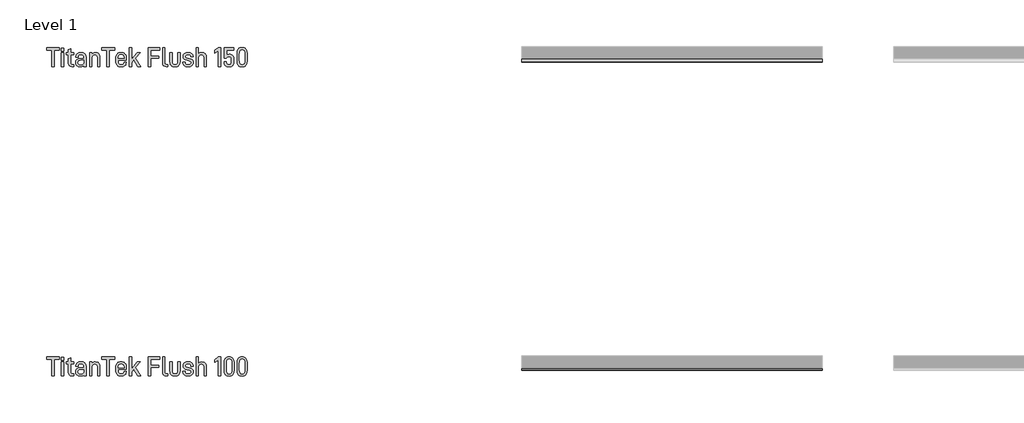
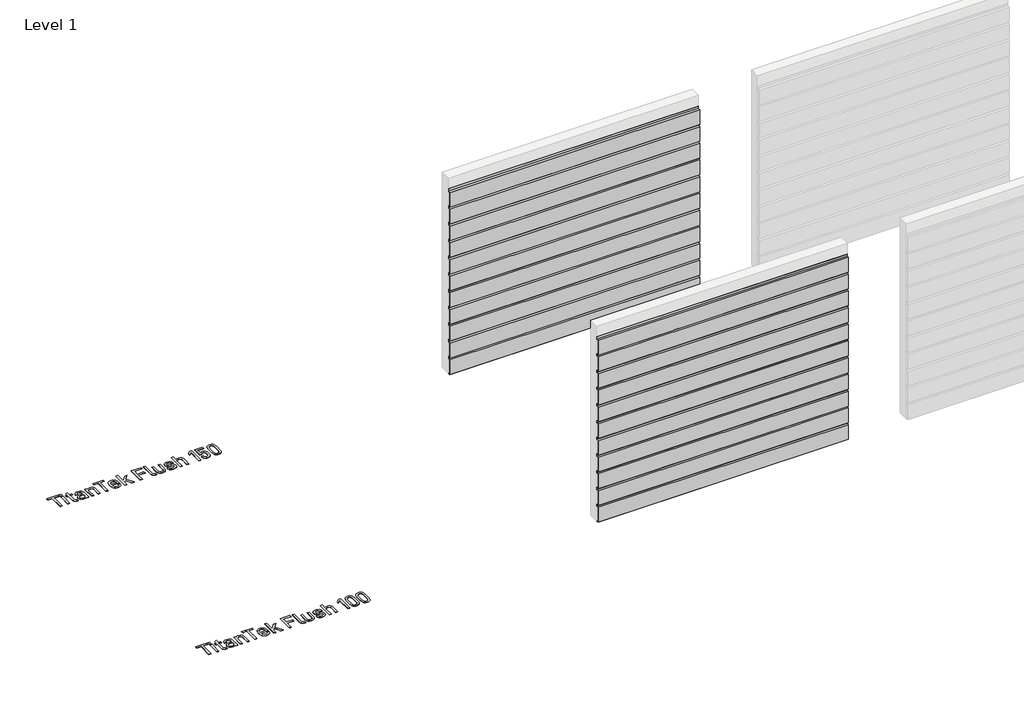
# One storey, part 27 of 33: 4 proxies.
"""IFC4 building model written with IfcOpenShell, lengths in millimetres."""

from ifc_helpers import new_model, si_unit, origin, origin_with_axes, place, context, project, spatial, polyline, outline, extrude, transform, mapped, element, save
from components import titantek_flush_100_aluminum_slate_gray_4e4c1b2d, titantek_flush_150_aluminum_slate_gray_06856ec8

model = new_model("IFC4")

# Units and contexts
model_context = context("Model", 3, world=origin())
ifc_project = project(units=[si_unit("LENGTHUNIT", "METRE", prefix="MILLI")], contexts=[model_context])

# Site, building, storey
site = spatial("IfcSite", under=ifc_project)
building = spatial("IfcBuilding", under=site)
storey = spatial("IfcBuildingStorey", under=building, Name="Level 1", Elevation=0.0)

# Proxies
placement = place(None, origin())
element("IfcBuildingElementProxy", 1, Name="600mm Arial 2", ObjectType="600mm Arial 2", at=placement, inside=storey, context=model_context, shape_type="SweptSolid", body=[
    extrude(outline(polyline([(-9914.9924556, 97220.4128343), (-9914.9924556, 96952.9873502), (-9954.4439015, 96952.9873502), (-9954.4439015, 97220.4128343), (-10038.8787304, 97220.4128343), (-10038.8787304, 97257.3166776), (-9830.5576267, 97257.3166776), (-9830.5576267, 97220.4128343), (-9914.9924556, 97220.4128343)])), origin_with_axes(), (0.0, 0.0, 1.0), 5.0),
    extrude(outline(polyline([(-9763.1553408, 97253.0221475), (-9763.1553408, 97205.8551051), (-9802.6067867, 97205.8551051), (-9802.6067867, 97253.0221475), (-9763.1553408, 97253.0221475)])), origin_with_axes(), (0.0, 0.0, 1.0), 5.0),
    extrude(outline(polyline([(-9764.0288046, 97178.8505176), (-9764.0288046, 96952.9873502), (-9801.733323, 96952.9873502), (-9801.733323, 97178.8505176), (-9764.0288046, 97178.8505176)])), origin_with_axes(), (0.0, 0.0, 1.0), 5.0),
    extrude(outline(polyline([(-9648.294858, 97012.601251), (-9646.8208879, 97001.5191797), (-9642.3989777, 96993.6034145), (-9635.0291273, 96988.8539554), (-9624.7113368, 96987.2708023), (-9603.2386864, 96987.2708023), (-9603.2386864, 96952.9873502), (-9629.3698101, 96952.9873502), (-9653.1535001, 96956.9543314), (-9671.3688587, 96968.855275), (-9682.6692959, 96987.3981825), (-9686.4361083, 97011.2910554), (-9686.4361083, 97147.1146681), (-9720.2828285, 97147.1146681), (-9720.2828285, 97178.8505176), (-9686.4361083, 97178.8505176), (-9686.4361083, 97226.8910237), (-9648.294858, 97244.8698192), (-9648.294858, 97178.8505176), (-9599.3808881, 97178.8505176), (-9599.3808881, 97147.1146681), (-9648.294858, 97147.1146681), (-9648.294858, 97012.601251)])), origin_with_axes(), (0.0, 0.0, 1.0), 5.0),
    extrude(outline(polyline([(-9422.8684225, 97162.1091291), (-9413.2830677, 97151.3409589), (-9406.4363858, 97138.2526505), (-9400.9590402, 97105.1156196), (-9400.9590402, 96952.9873502), (-9438.2996154, 96952.9873502), (-9438.2996154, 96969.2920069), (-9456.7151427, 96956.8451485), (-9473.7476858, 96952.0410978), (-9493.9829293, 96950.4397476), (-9526.0281305, 96954.7160806), (-9550.1029751, 96967.5450794), (-9565.2248162, 96989.3270816), (-9570.2654299, 97018.5699199), (-9565.1338304, 97046.2114081), (-9549.7390318, 97067.4111012), (-9525.063681, 97080.6222403), (-9493.1094655, 97085.0259534), (-9438.7363472, 97085.0259534), (-9438.7363472, 97105.5523515), (-9441.6296959, 97124.441005), (-9450.3097419, 97138.1616647), (-9464.2305704, 97146.1866129), (-9483.7197302, 97148.8615956), (-9502.2262434, 97146.6051476), (-9515.819523, 97139.8358036), (-9524.1720201, 97129.4816187), (-9526.9561857, 97115.4516073), (-9526.9561857, 97109.8468816), (-9563.8600291, 97109.8468816), (-9563.8600291, 97116.2522824), (-9558.4008807, 97143.2932642), (-9542.0234354, 97164.2927885), (-9516.8203668, 97177.4493362), (-9484.1564621, 97181.8348521), (-9448.6719974, 97176.9034213), (-9434.5600987, 97170.7391329), (-9422.8684225, 97162.1091291)]), holes=[polyline([(-9450.6736851, 96994.5496669), (-9441.7206817, 97009.4531421), (-9438.7363472, 97031.0167784), (-9438.7363472, 97054.9642428), (-9488.8149354, 97054.9642428), (-9507.9538, 97052.7168933), (-9521.6244175, 97045.974845), (-9529.826788, 97034.7380979), (-9532.5609115, 97019.0066518), (-9529.8540837, 97003.0522906), (-9521.7336004, 96991.6563182), (-9508.1994616, 96984.8187348), (-9489.2516673, 96982.5395404), (-9466.104878, 96985.542072), (-9450.6736851, 96994.5496669)])]), origin_with_axes(), (0.0, 0.0, 1.0), 5.0),
    extrude(outline(polyline([(-9306.6977441, 97178.8505176), (-9306.6977441, 97160.4349903), (-9288.2822167, 97173.6825238), (-9271.1222935, 97179.4692211), (-9252.2518372, 97181.3981202), (-9219.9154813, 97175.9389718), (-9206.7907787, 97169.1150363), (-9195.6950595, 97159.5615265), (-9187.0650557, 97147.9790333), (-9180.9007673, 97134.1946835), (-9175.9693365, 97100.0204144), (-9175.9693365, 96952.9873502), (-9213.673855, 96952.9873502), (-9213.673855, 97095.7258843), (-9216.6763866, 97118.1083928), (-9225.6839815, 97133.8671346), (-9240.3781893, 97143.4752358), (-9259.567096, 97146.6779363), (-9278.7378056, 97143.4752358), (-9293.3774219, 97133.8671346), (-9303.0401146, 97117.453295), (-9306.2610122, 97095.7258843), (-9306.2610122, 96952.9873502), (-9343.9655306, 96952.9873502), (-9343.9655306, 97178.8505176), (-9306.6977441, 97178.8505176)])), origin_with_axes(), (0.0, 0.0, 1.0), 5.0),
    extrude(outline(polyline([(-9025.2240514, 97220.4128343), (-9025.2240514, 96952.9873502), (-9064.6754974, 96952.9873502), (-9064.6754974, 97220.4128343), (-9149.1103263, 97220.4128343), (-9149.1103263, 97257.3166776), (-8940.7892225, 97257.3166776), (-8940.7892225, 97220.4128343), (-9025.2240514, 97220.4128343)])), origin_with_axes(), (0.0, 0.0, 1.0), 5.0),
    extrude(outline(polyline([(-8884.5235994, 97047.2486463), (-8881.1025331, 97017.8329349), (-8870.8393341, 96998.8805913), (-8854.3527058, 96988.5900965), (-8832.2613519, 96985.1599316), (-8812.990558, 96987.7257314), (-8798.8513635, 96995.4231306), (-8790.1713175, 97007.1966941), (-8787.2779689, 97022.86445), (-8787.2779689, 97028.3963871), (-8750.3741256, 97028.3963871), (-8750.3741256, 97021.9909863), (-8756.0516399, 96992.8391337), (-8763.1485329, 96980.528754), (-8773.084183, 96969.7287387), (-8799.7976159, 96955.2619954), (-8834.3722226, 96950.4397476), (-8853.3222916, 96951.9387388), (-8870.2843206, 96956.4357123), (-8885.2583098, 96963.9306682), (-8898.2442591, 96974.4236064), (-8908.7371973, 96988.0237099), (-8916.2321532, 97004.8401617), (-8920.7291267, 97024.8729617), (-8922.2281179, 97048.1221101), (-8922.2281179, 97085.8266285), (-8920.7314014, 97108.5321367), (-8916.2412518, 97128.1714231), (-8908.7576691, 97144.7444879), (-8898.2806535, 97158.2513309), (-8885.4971476, 97168.5691214), (-8870.7301511, 97175.9389718), (-8853.979664, 97180.360882), (-8835.2456864, 97181.8348521), (-8816.8438069, 97180.360882), (-8800.2161506, 97175.9389718), (-8785.3627176, 97168.5691214), (-8772.2835079, 97158.2513309), (-8761.9657174, 97144.9082623), (-8754.595867, 97128.389789), (-8750.1739568, 97108.6959111), (-8748.6999867, 97085.8266285), (-8748.6999867, 97055.8377065), (-8884.5235994, 97055.8377065), (-8884.5235994, 97047.2486463)]), holes=[polyline([(-8871.2760659, 97133.4304027), (-8881.2117161, 97115.30603), (-8884.5235994, 97086.7000923), (-8786.4045051, 97086.2633604), (-8786.4045051, 97089.6844267), (-8789.6254027, 97116.9255774), (-8799.2880954, 97134.3038665), (-8814.9012599, 97143.5844188), (-8835.2456864, 97146.6779363), (-8855.60831, 97143.3660529), (-8871.2760659, 97133.4304027)])]), origin_with_axes(), (0.0, 0.0, 1.0), 5.0),
    extrude(outline(polyline([(-8663.391694, 97020.3168474), (-8663.391694, 96952.9873502), (-8701.0962125, 96952.9873502), (-8701.0962125, 97257.3166776), (-8663.391694, 97257.3166776), (-8663.391694, 97070.8321675), (-8575.0990669, 97178.8505176), (-8528.3687564, 97178.8505176), (-8602.5403863, 97091.8680861), (-8517.6688255, 96952.9873502), (-8563.5256722, 96952.9873502), (-8627.7980463, 97062.6798392), (-8663.391694, 97020.3168474)])), origin_with_axes(), (0.0, 0.0, 1.0), 5.0),
    extrude(outline(polyline([(-8356.2963981, 97125.2780744), (-8229.4257888, 97125.2780744), (-8229.4257888, 97088.4470198), (-8356.2963981, 97088.4470198), (-8356.2963981, 96952.9873502), (-8396.1845759, 96952.9873502), (-8396.1845759, 97257.3166776), (-8208.025927, 97257.3166776), (-8208.025927, 97220.4128343), (-8356.2963981, 97220.4128343), (-8356.2963981, 97125.2780744)])), origin_with_axes(), (0.0, 0.0, 1.0), 5.0),
    extrude(outline(polyline([(-8150.3773196, 96968.855275), (-8161.6231654, 96988.362632), (-8165.3717806, 97014.2753899), (-8165.3717806, 97257.3166776), (-8127.6672622, 97257.3166776), (-8127.6672622, 97016.0223174), (-8126.2842779, 97002.6110094), (-8122.1353251, 96994.112935), (-8115.1476152, 96989.6364333), (-8104.5204729, 96988.1442661), (-8082.6838792, 96988.1442661), (-8082.6838792, 96952.9873502), (-8107.5048074, 96952.9873502), (-8132.380327, 96956.9543314), (-8150.3773196, 96968.855275)])), origin_with_axes(), (0.0, 0.0, 1.0), 5.0),
    extrude(outline(polyline([(-8027.9468177, 96973.1498051), (-8037.118187, 96985.4920298), (-8043.6691652, 97000.2453784), (-8048.9099476, 97036.9854473), (-8048.9099476, 97178.8505176), (-8011.2054292, 97178.8505176), (-8011.2054292, 97040.8432455), (-8008.5304465, 97015.6765713), (-8000.5054983, 96998.4074651), (-7986.4845854, 96988.471815), (-7964.9482449, 96985.1599316), (-7943.4119044, 96988.362632), (-7929.3909915, 96997.9707332), (-7921.3114519, 97015.3490224), (-7918.618272, 97040.8432455), (-7918.618272, 97178.8505176), (-7880.9137535, 97178.8505176), (-7880.9137535, 97036.9854473), (-7886.1727332, 97000.2453784), (-7892.7464577, 96985.4920298), (-7901.9496721, 96973.1498051), (-7913.9370522, 96963.2141549), (-7928.4993306, 96956.117262), (-7945.6365074, 96951.8591262), (-7965.3485825, 96950.4397476), (-7984.6830665, 96951.8591262), (-8001.5609337, 96956.117262), (-8015.9821841, 96963.2141549), (-8027.9468177, 96973.1498051)])), origin_with_axes(), (0.0, 0.0, 1.0), 5.0),
    extrude(outline(polyline([(-7814.1665655, 96968.4185431), (-7824.2932858, 96978.5953056), (-7831.5266575, 96990.273334), (-7837.3133548, 97018.1331881), (-7837.3133548, 97024.1746457), (-7800.4823001, 97024.1746457), (-7800.4823001, 97018.5699199), (-7797.3705855, 97004.3215426), (-7788.0354417, 96993.3122599), (-7772.9136006, 96986.215367), (-7753.3152577, 96983.849736), (-7732.7524654, 96986.106184), (-7717.3576668, 96992.875528), (-7708.3500719, 97003.5572618), (-7705.3475403, 97017.6964562), (-7707.3856224, 97029.9431458), (-7713.4998686, 97038.2956429), (-7724.818503, 97044.391692), (-7742.6153268, 97048.9955738), (-7769.6199144, 97053.7268358), (-7798.2076549, 97061.751784), (-7818.0243637, 97073.8892906), (-7829.9253073, 97091.3403684), (-7833.8922885, 97115.4516073), (-7828.2147741, 97142.7655466), (-7821.1178811, 97154.0887302), (-7811.182231, 97163.8560566), (-7786.0155568, 97177.3401532), (-7754.1887215, 97181.8348521), (-7720.1236353, 97177.4493362), (-7694.2108775, 97164.2927885), (-7676.8507855, 97143.9119677), (-7671.0640882, 97117.9992099), (-7671.0640882, 97111.1570772), (-7707.8951429, 97111.1570772), (-7707.8951429, 97116.6890143), (-7710.7884915, 97129.9001534), (-7719.4685375, 97140.2725354), (-7734.1536468, 97147.0418795), (-7753.3152577, 97149.2983275), (-7772.3858829, 97147.0418795), (-7785.924571, 97140.2725354), (-7794.2770681, 97130.300491), (-7797.0612338, 97116.6890143), (-7795.1323347, 97105.7889146), (-7789.3456373, 97097.836755), (-7778.8458752, 97091.631523), (-7762.7777817, 97087.573556), (-7734.4629985, 97082.4055622), (-7705.4385261, 97074.0712622), (-7685.1850854, 97061.8791641), (-7672.6290441, 97043.9549601), (-7668.4436969, 97019.4433837), (-7669.9449628, 97003.8620642), (-7674.4487602, 96990.164151), (-7681.9550893, 96978.3496439), (-7692.46395, 96968.4185431), (-7719.7960864, 96954.9344465), (-7754.6254534, 96950.4397476), (-7787.9262587, 96954.9344465), (-7814.1665655, 96968.4185431)])), origin_with_axes(), (0.0, 0.0, 1.0), 5.0),
    extrude(outline(polyline([(-7587.2843571, 97257.3166776), (-7587.2843571, 97159.9982584), (-7563.7008359, 97176.0481548), (-7533.275182, 97181.3981202), (-7501.484741, 97176.0481548), (-7488.3873341, 97169.3606979), (-7477.1551362, 97159.9982584), (-7468.3340622, 97148.224695), (-7462.0332951, 97134.3038665), (-7456.9926814, 97100.0204144), (-7456.9926814, 96952.9873502), (-7494.6971998, 96952.9873502), (-7494.6971998, 97095.7258843), (-7497.6997315, 97118.1083928), (-7506.7073264, 97133.8671346), (-7521.4015342, 97143.4752358), (-7540.5904409, 97146.6779363), (-7559.7611504, 97143.4752358), (-7574.4007668, 97133.8671346), (-7584.0634595, 97117.453295), (-7587.2843571, 97095.7258843), (-7587.2843571, 96952.9873502), (-7624.9888755, 96952.9873502), (-7624.9888755, 97257.3166776), (-7587.2843571, 97257.3166776)])), origin_with_axes(), (0.0, 0.0, 1.0), 5.0),
    extrude(outline(polyline([(-7318.9126206, 97170.2614574), (-7318.9126206, 97216.1183042), (-7265.3401775, 97257.3166776), (-7228.5091228, 97257.3166776), (-7228.5091228, 96952.9873502), (-7267.9605687, 96952.9873502), (-7267.9605687, 97208.4027077), (-7318.9126206, 97170.2614574)])), origin_with_axes(), (0.0, 0.0, 1.0), 5.0),
    extrude(outline(polyline([(-7172.3162883, 97164.2927885), (-7167.2301817, 97206.8377519), (-7160.8725485, 97223.5518446), (-7151.9718619, 97237.2270114), (-7140.528122, 97247.8632523), (-7126.5413288, 97255.4605671), (-7110.0114823, 97260.0189561), (-7090.9385825, 97261.5384191), (-7071.7462639, 97260.0189561), (-7055.112921, 97255.4605671), (-7041.038554, 97247.8632523), (-7029.5231628, 97237.2270114), (-7020.5667474, 97223.5518446), (-7014.1693079, 97206.8377519), (-7009.0513562, 97164.2927885), (-7009.0513562, 97047.6853782), (-7014.1693079, 97004.3761341), (-7020.5667474, 96987.3617881), (-7029.5231628, 96973.4409597), (-7041.038554, 96962.6136486), (-7055.112921, 96954.879855), (-7071.7462639, 96950.2395789), (-7090.9385825, 96948.6928201), (-7110.0114823, 96950.2395789), (-7126.5413288, 96954.879855), (-7140.528122, 96962.6136486), (-7151.9718619, 96973.4409597), (-7160.8725485, 96987.3617881), (-7167.2301817, 97004.3761341), (-7172.3162883, 97047.6853782), (-7172.3162883, 97164.2927885)]), holes=[polyline([(-7058.7660012, 97000.1543926), (-7051.3961508, 97021.4814658), (-7048.939534, 97053.7268358), (-7048.939534, 97156.5771921), (-7051.3961508, 97188.8225621), (-7058.7660012, 97210.1496352), (-7071.4949156, 97221.0679321), (-7090.9021882, 97224.7073644), (-7110.2002779, 97221.0679321), (-7122.6016434, 97210.1496352), (-7130.0260852, 97188.8225621), (-7132.5008992, 97156.5771921), (-7132.5008992, 97053.7268358), (-7130.0260852, 97021.4814658), (-7122.6016434, 97000.1543926), (-7110.2002779, 96989.2360958), (-7090.9021882, 96985.5966635), (-7071.4949156, 96989.2360958), (-7058.7660012, 97000.1543926)])]), origin_with_axes(), (0.0, 0.0, 1.0), 5.0),
    extrude(outline(polyline([(-6962.6849889, 97164.2927885), (-6957.5988823, 97206.8377519), (-6951.2412491, 97223.5518446), (-6942.3405625, 97237.2270114), (-6930.8968226, 97247.8632523), (-6916.9100294, 97255.4605671), (-6900.3801829, 97260.0189561), (-6881.3072831, 97261.5384191), (-6862.1149645, 97260.0189561), (-6845.4816216, 97255.4605671), (-6831.4072546, 97247.8632523), (-6819.8918634, 97237.2270114), (-6810.935448, 97223.5518446), (-6804.5380084, 97206.8377519), (-6799.4200568, 97164.2927885), (-6799.4200568, 97047.6853782), (-6804.5380084, 97004.3761341), (-6810.935448, 96987.3617881), (-6819.8918634, 96973.4409597), (-6831.4072546, 96962.6136486), (-6845.4816216, 96954.879855), (-6862.1149645, 96950.2395789), (-6881.3072831, 96948.6928201), (-6900.3801829, 96950.2395789), (-6916.9100294, 96954.879855), (-6930.8968226, 96962.6136486), (-6942.3405625, 96973.4409597), (-6951.2412491, 96987.3617881), (-6957.5988823, 97004.3761341), (-6962.6849889, 97047.6853782), (-6962.6849889, 97164.2927885)]), holes=[polyline([(-6849.1347018, 97000.1543926), (-6841.7648514, 97021.4814658), (-6839.3082346, 97053.7268358), (-6839.3082346, 97156.5771921), (-6841.7648514, 97188.8225621), (-6849.1347018, 97210.1496352), (-6861.8636162, 97221.0679321), (-6881.2708888, 97224.7073644), (-6900.5689785, 97221.0679321), (-6912.970344, 97210.1496352), (-6920.3947858, 97188.8225621), (-6922.8695998, 97156.5771921), (-6922.8695998, 97053.7268358), (-6920.3947858, 97021.4814658), (-6912.970344, 97000.1543926), (-6900.5689785, 96989.2360958), (-6881.2708888, 96985.5966635), (-6861.8636162, 96989.2360958), (-6849.1347018, 97000.1543926)])]), origin_with_axes(), (0.0, 0.0, 1.0), 5.0),
])
element("IfcBuildingElementProxy", 2, Name="600mm Arial 2", ObjectType="600mm Arial 2", at=placement, inside=storey, context=model_context, shape_type="SweptSolid", body=[
    extrude(outline(polyline([(-9914.9924556, 102220.4128343), (-9914.9924556, 101952.9873502), (-9954.4439015, 101952.9873502), (-9954.4439015, 102220.4128343), (-10038.8787304, 102220.4128343), (-10038.8787304, 102257.3166776), (-9830.5576267, 102257.3166776), (-9830.5576267, 102220.4128343), (-9914.9924556, 102220.4128343)])), origin_with_axes(), (0.0, 0.0, 1.0), 5.0),
    extrude(outline(polyline([(-9763.1553408, 102253.0221475), (-9763.1553408, 102205.8551051), (-9802.6067867, 102205.8551051), (-9802.6067867, 102253.0221475), (-9763.1553408, 102253.0221475)])), origin_with_axes(), (0.0, 0.0, 1.0), 5.0),
    extrude(outline(polyline([(-9764.0288046, 102178.8505176), (-9764.0288046, 101952.9873502), (-9801.733323, 101952.9873502), (-9801.733323, 102178.8505176), (-9764.0288046, 102178.8505176)])), origin_with_axes(), (0.0, 0.0, 1.0), 5.0),
    extrude(outline(polyline([(-9648.294858, 102012.601251), (-9646.8208879, 102001.5191797), (-9642.3989777, 101993.6034145), (-9635.0291273, 101988.8539554), (-9624.7113368, 101987.2708023), (-9603.2386864, 101987.2708023), (-9603.2386864, 101952.9873502), (-9629.3698101, 101952.9873502), (-9653.1535001, 101956.9543314), (-9671.3688587, 101968.855275), (-9682.6692959, 101987.3981825), (-9686.4361083, 102011.2910554), (-9686.4361083, 102147.1146681), (-9720.2828285, 102147.1146681), (-9720.2828285, 102178.8505176), (-9686.4361083, 102178.8505176), (-9686.4361083, 102226.8910237), (-9648.294858, 102244.8698192), (-9648.294858, 102178.8505176), (-9599.3808881, 102178.8505176), (-9599.3808881, 102147.1146681), (-9648.294858, 102147.1146681), (-9648.294858, 102012.601251)])), origin_with_axes(), (0.0, 0.0, 1.0), 5.0),
    extrude(outline(polyline([(-9422.8684225, 102162.1091291), (-9413.2830677, 102151.3409589), (-9406.4363858, 102138.2526505), (-9400.9590402, 102105.1156196), (-9400.9590402, 101952.9873502), (-9438.2996154, 101952.9873502), (-9438.2996154, 101969.2920069), (-9456.7151427, 101956.8451485), (-9473.7476858, 101952.0410978), (-9493.9829293, 101950.4397476), (-9526.0281305, 101954.7160806), (-9550.1029751, 101967.5450794), (-9565.2248162, 101989.3270816), (-9570.2654299, 102018.5699199), (-9565.1338304, 102046.2114081), (-9549.7390318, 102067.4111012), (-9525.063681, 102080.6222403), (-9493.1094655, 102085.0259534), (-9438.7363472, 102085.0259534), (-9438.7363472, 102105.5523515), (-9441.6296959, 102124.441005), (-9450.3097419, 102138.1616647), (-9464.2305704, 102146.1866129), (-9483.7197302, 102148.8615956), (-9502.2262434, 102146.6051476), (-9515.819523, 102139.8358036), (-9524.1720201, 102129.4816187), (-9526.9561857, 102115.4516073), (-9526.9561857, 102109.8468816), (-9563.8600291, 102109.8468816), (-9563.8600291, 102116.2522824), (-9558.4008807, 102143.2932642), (-9542.0234354, 102164.2927885), (-9516.8203668, 102177.4493362), (-9484.1564621, 102181.8348521), (-9448.6719974, 102176.9034213), (-9434.5600987, 102170.7391329), (-9422.8684225, 102162.1091291)]), holes=[polyline([(-9450.6736851, 101994.5496669), (-9441.7206817, 102009.4531421), (-9438.7363472, 102031.0167784), (-9438.7363472, 102054.9642428), (-9488.8149354, 102054.9642428), (-9507.9538, 102052.7168933), (-9521.6244175, 102045.974845), (-9529.826788, 102034.7380979), (-9532.5609115, 102019.0066518), (-9529.8540837, 102003.0522906), (-9521.7336004, 101991.6563182), (-9508.1994616, 101984.8187348), (-9489.2516673, 101982.5395404), (-9466.104878, 101985.542072), (-9450.6736851, 101994.5496669)])]), origin_with_axes(), (0.0, 0.0, 1.0), 5.0),
    extrude(outline(polyline([(-9306.6977441, 102178.8505176), (-9306.6977441, 102160.4349903), (-9288.2822167, 102173.6825238), (-9271.1222935, 102179.4692211), (-9252.2518372, 102181.3981202), (-9219.9154813, 102175.9389718), (-9206.7907787, 102169.1150363), (-9195.6950595, 102159.5615265), (-9187.0650557, 102147.9790333), (-9180.9007673, 102134.1946835), (-9175.9693365, 102100.0204144), (-9175.9693365, 101952.9873502), (-9213.673855, 101952.9873502), (-9213.673855, 102095.7258843), (-9216.6763866, 102118.1083928), (-9225.6839815, 102133.8671346), (-9240.3781893, 102143.4752358), (-9259.567096, 102146.6779363), (-9278.7378056, 102143.4752358), (-9293.3774219, 102133.8671346), (-9303.0401146, 102117.453295), (-9306.2610122, 102095.7258843), (-9306.2610122, 101952.9873502), (-9343.9655306, 101952.9873502), (-9343.9655306, 102178.8505176), (-9306.6977441, 102178.8505176)])), origin_with_axes(), (0.0, 0.0, 1.0), 5.0),
    extrude(outline(polyline([(-9025.2240514, 102220.4128343), (-9025.2240514, 101952.9873502), (-9064.6754974, 101952.9873502), (-9064.6754974, 102220.4128343), (-9149.1103263, 102220.4128343), (-9149.1103263, 102257.3166776), (-8940.7892225, 102257.3166776), (-8940.7892225, 102220.4128343), (-9025.2240514, 102220.4128343)])), origin_with_axes(), (0.0, 0.0, 1.0), 5.0),
    extrude(outline(polyline([(-8884.5235994, 102047.2486463), (-8881.1025331, 102017.8329349), (-8870.8393341, 101998.8805913), (-8854.3527058, 101988.5900965), (-8832.2613519, 101985.1599316), (-8812.990558, 101987.7257314), (-8798.8513635, 101995.4231306), (-8790.1713175, 102007.1966941), (-8787.2779689, 102022.86445), (-8787.2779689, 102028.3963871), (-8750.3741256, 102028.3963871), (-8750.3741256, 102021.9909863), (-8756.0516399, 101992.8391337), (-8763.1485329, 101980.528754), (-8773.084183, 101969.7287387), (-8799.7976159, 101955.2619954), (-8834.3722226, 101950.4397476), (-8853.3222916, 101951.9387388), (-8870.2843206, 101956.4357123), (-8885.2583098, 101963.9306682), (-8898.2442591, 101974.4236064), (-8908.7371973, 101988.0237099), (-8916.2321532, 102004.8401617), (-8920.7291267, 102024.8729617), (-8922.2281179, 102048.1221101), (-8922.2281179, 102085.8266285), (-8920.7314014, 102108.5321367), (-8916.2412518, 102128.1714231), (-8908.7576691, 102144.7444879), (-8898.2806535, 102158.2513309), (-8885.4971476, 102168.5691214), (-8870.7301511, 102175.9389718), (-8853.979664, 102180.360882), (-8835.2456864, 102181.8348521), (-8816.8438069, 102180.360882), (-8800.2161506, 102175.9389718), (-8785.3627176, 102168.5691214), (-8772.2835079, 102158.2513309), (-8761.9657174, 102144.9082623), (-8754.595867, 102128.389789), (-8750.1739568, 102108.6959111), (-8748.6999867, 102085.8266285), (-8748.6999867, 102055.8377065), (-8884.5235994, 102055.8377065), (-8884.5235994, 102047.2486463)]), holes=[polyline([(-8871.2760659, 102133.4304027), (-8881.2117161, 102115.30603), (-8884.5235994, 102086.7000923), (-8786.4045051, 102086.2633604), (-8786.4045051, 102089.6844267), (-8789.6254027, 102116.9255774), (-8799.2880954, 102134.3038665), (-8814.9012599, 102143.5844188), (-8835.2456864, 102146.6779363), (-8855.60831, 102143.3660529), (-8871.2760659, 102133.4304027)])]), origin_with_axes(), (0.0, 0.0, 1.0), 5.0),
    extrude(outline(polyline([(-8663.391694, 102020.3168474), (-8663.391694, 101952.9873502), (-8701.0962125, 101952.9873502), (-8701.0962125, 102257.3166776), (-8663.391694, 102257.3166776), (-8663.391694, 102070.8321675), (-8575.0990669, 102178.8505176), (-8528.3687564, 102178.8505176), (-8602.5403863, 102091.8680861), (-8517.6688255, 101952.9873502), (-8563.5256722, 101952.9873502), (-8627.7980463, 102062.6798392), (-8663.391694, 102020.3168474)])), origin_with_axes(), (0.0, 0.0, 1.0), 5.0),
    extrude(outline(polyline([(-8356.2963981, 102125.2780744), (-8229.4257888, 102125.2780744), (-8229.4257888, 102088.4470198), (-8356.2963981, 102088.4470198), (-8356.2963981, 101952.9873502), (-8396.1845759, 101952.9873502), (-8396.1845759, 102257.3166776), (-8208.025927, 102257.3166776), (-8208.025927, 102220.4128343), (-8356.2963981, 102220.4128343), (-8356.2963981, 102125.2780744)])), origin_with_axes(), (0.0, 0.0, 1.0), 5.0),
    extrude(outline(polyline([(-8150.3773196, 101968.855275), (-8161.6231654, 101988.362632), (-8165.3717806, 102014.2753899), (-8165.3717806, 102257.3166776), (-8127.6672622, 102257.3166776), (-8127.6672622, 102016.0223174), (-8126.2842779, 102002.6110094), (-8122.1353251, 101994.112935), (-8115.1476152, 101989.6364333), (-8104.5204729, 101988.1442661), (-8082.6838792, 101988.1442661), (-8082.6838792, 101952.9873502), (-8107.5048074, 101952.9873502), (-8132.380327, 101956.9543314), (-8150.3773196, 101968.855275)])), origin_with_axes(), (0.0, 0.0, 1.0), 5.0),
    extrude(outline(polyline([(-8027.9468177, 101973.1498051), (-8037.118187, 101985.4920298), (-8043.6691652, 102000.2453784), (-8048.9099476, 102036.9854473), (-8048.9099476, 102178.8505176), (-8011.2054292, 102178.8505176), (-8011.2054292, 102040.8432455), (-8008.5304465, 102015.6765713), (-8000.5054983, 101998.4074651), (-7986.4845854, 101988.471815), (-7964.9482449, 101985.1599316), (-7943.4119044, 101988.362632), (-7929.3909915, 101997.9707332), (-7921.3114519, 102015.3490224), (-7918.618272, 102040.8432455), (-7918.618272, 102178.8505176), (-7880.9137535, 102178.8505176), (-7880.9137535, 102036.9854473), (-7886.1727332, 102000.2453784), (-7892.7464577, 101985.4920298), (-7901.9496721, 101973.1498051), (-7913.9370522, 101963.2141549), (-7928.4993306, 101956.117262), (-7945.6365074, 101951.8591262), (-7965.3485825, 101950.4397476), (-7984.6830665, 101951.8591262), (-8001.5609337, 101956.117262), (-8015.9821841, 101963.2141549), (-8027.9468177, 101973.1498051)])), origin_with_axes(), (0.0, 0.0, 1.0), 5.0),
    extrude(outline(polyline([(-7814.1665655, 101968.4185431), (-7824.2932858, 101978.5953056), (-7831.5266575, 101990.273334), (-7837.3133548, 102018.1331881), (-7837.3133548, 102024.1746457), (-7800.4823001, 102024.1746457), (-7800.4823001, 102018.5699199), (-7797.3705855, 102004.3215426), (-7788.0354417, 101993.3122599), (-7772.9136006, 101986.215367), (-7753.3152577, 101983.849736), (-7732.7524654, 101986.106184), (-7717.3576668, 101992.875528), (-7708.3500719, 102003.5572618), (-7705.3475403, 102017.6964562), (-7707.3856224, 102029.9431458), (-7713.4998686, 102038.2956429), (-7724.818503, 102044.391692), (-7742.6153268, 102048.9955738), (-7769.6199144, 102053.7268358), (-7798.2076549, 102061.751784), (-7818.0243637, 102073.8892906), (-7829.9253073, 102091.3403684), (-7833.8922885, 102115.4516073), (-7828.2147741, 102142.7655466), (-7821.1178811, 102154.0887302), (-7811.182231, 102163.8560566), (-7786.0155568, 102177.3401532), (-7754.1887215, 102181.8348521), (-7720.1236353, 102177.4493362), (-7694.2108775, 102164.2927885), (-7676.8507855, 102143.9119677), (-7671.0640882, 102117.9992099), (-7671.0640882, 102111.1570772), (-7707.8951429, 102111.1570772), (-7707.8951429, 102116.6890143), (-7710.7884915, 102129.9001534), (-7719.4685375, 102140.2725354), (-7734.1536468, 102147.0418795), (-7753.3152577, 102149.2983275), (-7772.3858829, 102147.0418795), (-7785.924571, 102140.2725354), (-7794.2770681, 102130.300491), (-7797.0612338, 102116.6890143), (-7795.1323347, 102105.7889146), (-7789.3456373, 102097.836755), (-7778.8458752, 102091.631523), (-7762.7777817, 102087.573556), (-7734.4629985, 102082.4055622), (-7705.4385261, 102074.0712622), (-7685.1850854, 102061.8791641), (-7672.6290441, 102043.9549601), (-7668.4436969, 102019.4433837), (-7669.9449628, 102003.8620642), (-7674.4487602, 101990.164151), (-7681.9550893, 101978.3496439), (-7692.46395, 101968.4185431), (-7719.7960864, 101954.9344465), (-7754.6254534, 101950.4397476), (-7787.9262587, 101954.9344465), (-7814.1665655, 101968.4185431)])), origin_with_axes(), (0.0, 0.0, 1.0), 5.0),
    extrude(outline(polyline([(-7587.2843571, 102257.3166776), (-7587.2843571, 102159.9982584), (-7563.7008359, 102176.0481548), (-7533.275182, 102181.3981202), (-7501.484741, 102176.0481548), (-7488.3873341, 102169.3606979), (-7477.1551362, 102159.9982584), (-7468.3340622, 102148.224695), (-7462.0332951, 102134.3038665), (-7456.9926814, 102100.0204144), (-7456.9926814, 101952.9873502), (-7494.6971998, 101952.9873502), (-7494.6971998, 102095.7258843), (-7497.6997315, 102118.1083928), (-7506.7073264, 102133.8671346), (-7521.4015342, 102143.4752358), (-7540.5904409, 102146.6779363), (-7559.7611504, 102143.4752358), (-7574.4007668, 102133.8671346), (-7584.0634595, 102117.453295), (-7587.2843571, 102095.7258843), (-7587.2843571, 101952.9873502), (-7624.9888755, 101952.9873502), (-7624.9888755, 102257.3166776), (-7587.2843571, 102257.3166776)])), origin_with_axes(), (0.0, 0.0, 1.0), 5.0),
    extrude(outline(polyline([(-7318.9126206, 102170.2614574), (-7318.9126206, 102216.1183042), (-7265.3401775, 102257.3166776), (-7228.5091228, 102257.3166776), (-7228.5091228, 101952.9873502), (-7267.9605687, 101952.9873502), (-7267.9605687, 102208.4027077), (-7318.9126206, 102170.2614574)])), origin_with_axes(), (0.0, 0.0, 1.0), 5.0),
    extrude(outline(polyline([(-7150.9164265, 101968.4185431), (-7160.2788661, 101978.9728967), (-7166.9663229, 101991.3469665), (-7172.3162883, 102021.5542544), (-7172.3162883, 102031.4535102), (-7133.7383062, 102031.4535102), (-7133.7383062, 102024.1746457), (-7131.1725064, 102007.7426089), (-7123.4751071, 101995.4231306), (-7110.6279112, 101988.0532803), (-7093.4861851, 101985.5966635), (-7075.684812, 101988.8084625), (-7062.9695455, 101998.4438594), (-7055.3403855, 102014.5028544), (-7052.7973322, 102036.9854473), (-7052.7973322, 102064.8634986), (-7055.253949, 102088.2286538), (-7062.6237994, 102104.3149445), (-7074.9250805, 102113.5954968), (-7093.0494533, 102116.6890143), (-7106.4425641, 102114.8692981), (-7117.5064382, 102109.4101497), (-7126.7142019, 102099.8748371), (-7132.9376311, 102086.7000923), (-7167.657815, 102086.7000923), (-7167.657815, 102257.3166776), (-7017.6404164, 102257.3166776), (-7017.6404164, 102219.9761024), (-7130.3172398, 102219.9761024), (-7130.3172398, 102139.8358036), (-7116.6329744, 102147.9881319), (-7088.7549232, 102153.5928576), (-7071.0536344, 102152.1461833), (-7055.6542866, 102147.8061603), (-7042.5568796, 102140.5727886), (-7031.7614136, 102130.4460683), (-7017.6222192, 102103.1139318), (-7012.9091544, 102066.5376374), (-7012.9091544, 102034.4378447), (-7018.2682185, 101998.5166481), (-7024.9670485, 101983.8588346), (-7034.3454106, 101971.4028776), (-7046.0530093, 101961.4672275), (-7059.7395493, 101954.3703345), (-7093.0494533, 101948.6928201), (-7125.9317239, 101953.6242509), (-7150.9164265, 101968.4185431)])), origin_with_axes(), (0.0, 0.0, 1.0), 5.0),
    extrude(outline(polyline([(-6962.6849889, 102164.2927885), (-6957.5988823, 102206.8377519), (-6951.2412491, 102223.5518446), (-6942.3405625, 102237.2270114), (-6930.8968226, 102247.8632523), (-6916.9100294, 102255.4605671), (-6900.3801829, 102260.0189561), (-6881.3072831, 102261.5384191), (-6862.1149645, 102260.0189561), (-6845.4816216, 102255.4605671), (-6831.4072546, 102247.8632523), (-6819.8918634, 102237.2270114), (-6810.935448, 102223.5518446), (-6804.5380084, 102206.8377519), (-6799.4200568, 102164.2927885), (-6799.4200568, 102047.6853782), (-6804.5380084, 102004.3761341), (-6810.935448, 101987.3617881), (-6819.8918634, 101973.4409597), (-6831.4072546, 101962.6136486), (-6845.4816216, 101954.879855), (-6862.1149645, 101950.2395789), (-6881.3072831, 101948.6928201), (-6900.3801829, 101950.2395789), (-6916.9100294, 101954.879855), (-6930.8968226, 101962.6136486), (-6942.3405625, 101973.4409597), (-6951.2412491, 101987.3617881), (-6957.5988823, 102004.3761341), (-6962.6849889, 102047.6853782), (-6962.6849889, 102164.2927885)]), holes=[polyline([(-6849.1347018, 102000.1543926), (-6841.7648514, 102021.4814658), (-6839.3082346, 102053.7268358), (-6839.3082346, 102156.5771921), (-6841.7648514, 102188.8225621), (-6849.1347018, 102210.1496352), (-6861.8636162, 102221.0679321), (-6881.2708888, 102224.7073644), (-6900.5689785, 102221.0679321), (-6912.970344, 102210.1496352), (-6920.3947858, 102188.8225621), (-6922.8695998, 102156.5771921), (-6922.8695998, 102053.7268358), (-6920.3947858, 102021.4814658), (-6912.970344, 102000.1543926), (-6900.5689785, 101989.2360958), (-6881.2708888, 101985.5966635), (-6861.8636162, 101989.2360958), (-6849.1347018, 102000.1543926)])]), origin_with_axes(), (0.0, 0.0, 1.0), 5.0),
])
titantek_flush_100_aluminum_slate_gray_shape = titantek_flush_100_aluminum_slate_gray_4e4c1b2d(model_context)
element("IfcBuildingElementProxy", 3, Name="TitanTek Flush 100 : Aluminum Slate Gray", ObjectType="TitanTek Flush 100 : Aluminum Slate Gray", at=placement, inside=storey, context=model_context, shape_type="MappedRepresentation", body=[
    mapped(titantek_flush_100_aluminum_slate_gray_shape, transform((-2360.5897817, 97064.917315, 0.0), x_axis=(1.0, 0.0, 0.0), y_axis=(0.0, 1.0, 0.0), z_axis=(0.0, 0.0, 1.0))),
])
titantek_flush_150_aluminum_slate_gray_shape = titantek_flush_150_aluminum_slate_gray_06856ec8(model_context)
element("IfcBuildingElementProxy", 4, Name="TitanTek Flush 150 : Aluminum Slate Gray", ObjectType="TitanTek Flush 150 : Aluminum Slate Gray", at=placement, inside=storey, context=model_context, shape_type="MappedRepresentation", body=[
    mapped(titantek_flush_150_aluminum_slate_gray_shape, transform((-2360.5897817, 102064.917315, 0.0), x_axis=(1.0, 0.0, 0.0), y_axis=(0.0, 1.0, 0.0), z_axis=(0.0, 0.0, 1.0))),
])

save(model, "model.ifc")
